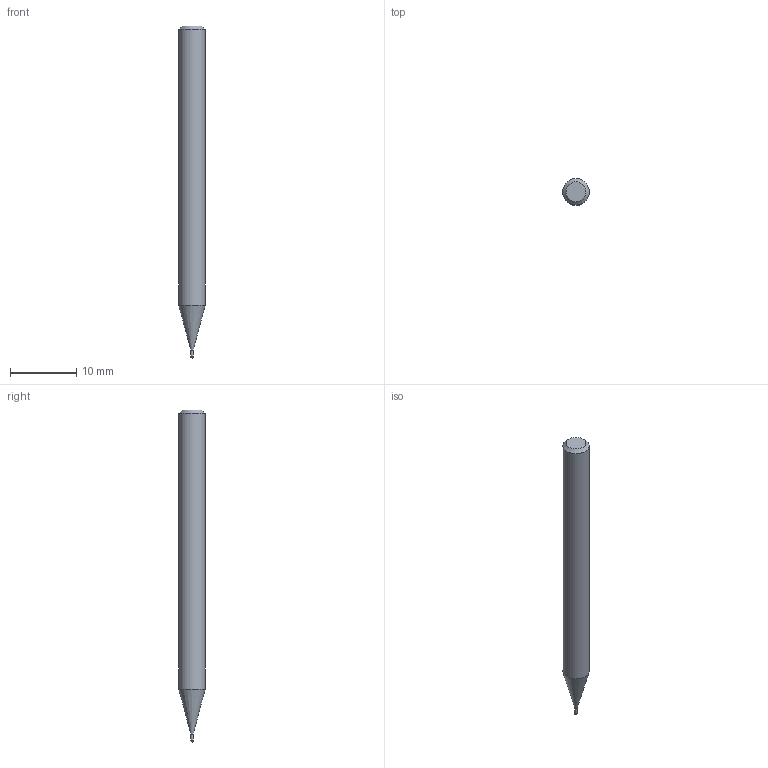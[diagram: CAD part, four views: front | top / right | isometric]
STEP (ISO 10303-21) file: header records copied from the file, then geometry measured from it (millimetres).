
FILE_DESCRIPTION((''),'2;1');
FILE_NAME('C:\Users\nsx150\AppData\Local\Temp\Mastercam 2021\LJSIDMOTM8\TEMP.step','2021-08-03T14:22:55',(''),(''),'STEP Write','Mastercam 2021 ... CNC Software, Inc.','');
FILE_SCHEMA(('AUTOMOTIVE_DESIGN'));
Length unit declared in the file: millimetre
Products named in the file (1): None
Bounding box: 4 x 4 x 50 mm (x, y, z)
Volume: 558 mm3; surface area: 586.5 mm2
Topology: 2 solids, 2 shells, 9 faces, 14 edges, 8 vertices
Faces by surface type: plane 3, cylinder 3, cone 2, sphere 1
Full cylindrical faces by diameter (mm): 0.37 x1, 0.4 x1, 4 x1
Entity records: 211 total; most frequent: DIRECTION 36, CARTESIAN_POINT 25, AXIS2_PLACEMENT_3D 18, ORIENTED_EDGE 14, EDGE_LOOP 14, STYLED_ITEM 12, ADVANCED_FACE 9, FACE_BOUND 8
